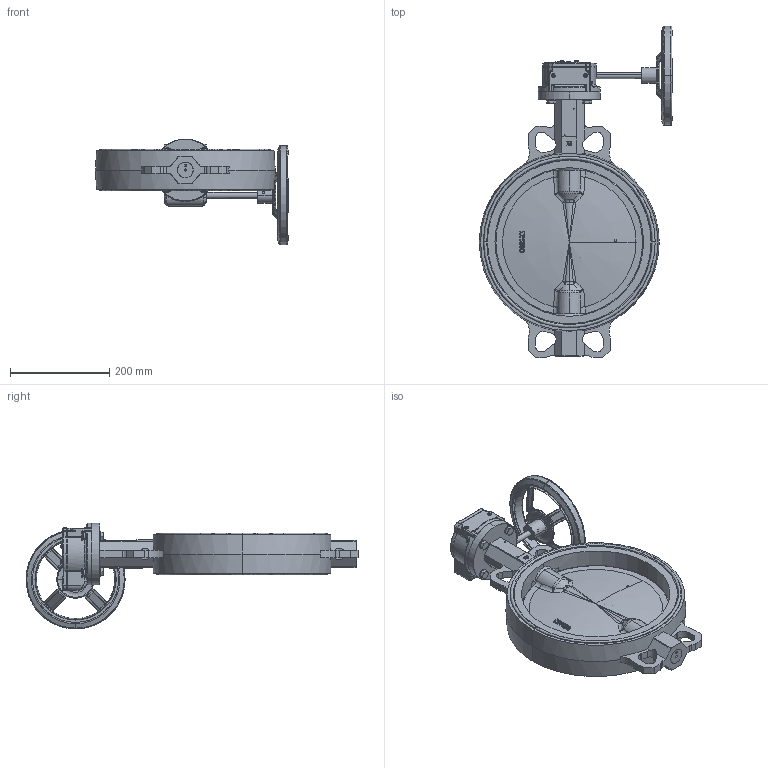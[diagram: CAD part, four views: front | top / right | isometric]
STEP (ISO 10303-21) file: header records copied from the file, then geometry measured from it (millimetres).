
FILE_DESCRIPTION (( 'STEP AP203' ), '1' );
FILE_NAME ('VPI-08 DN300.step', '2016-09-29T14:02:12', ( 'TECOFI' ), ( '' ), 'SwSTEP 2.0', 'SolidWorks 2014', '' );
FILE_SCHEMA (( 'CONFIG_CONTROL_DESIGN' ));
Length unit declared in the file: millimetre
Products named in the file (1): VPI-08 DN300
Bounding box: 390.1 x 670 x 213.7 mm (x, y, z)
Volume: 5147506 mm3; surface area: 848667.7 mm2
Topology: 36 solids, 36 shells, 3260 faces, 8378 edges, 5203 vertices
Faces by surface type: plane 1219, bspline 1098, cylinder 698, cone 237, torus 8
Entity records: 154416 total; most frequent: CARTESIAN_POINT 83559, ORIENTED_EDGE 16508, DIRECTION 12213, EDGE_CURVE 8254, VERTEX_POINT 5203, AXIS2_PLACEMENT_3D 4254, LINE 3705, VECTOR 3705
